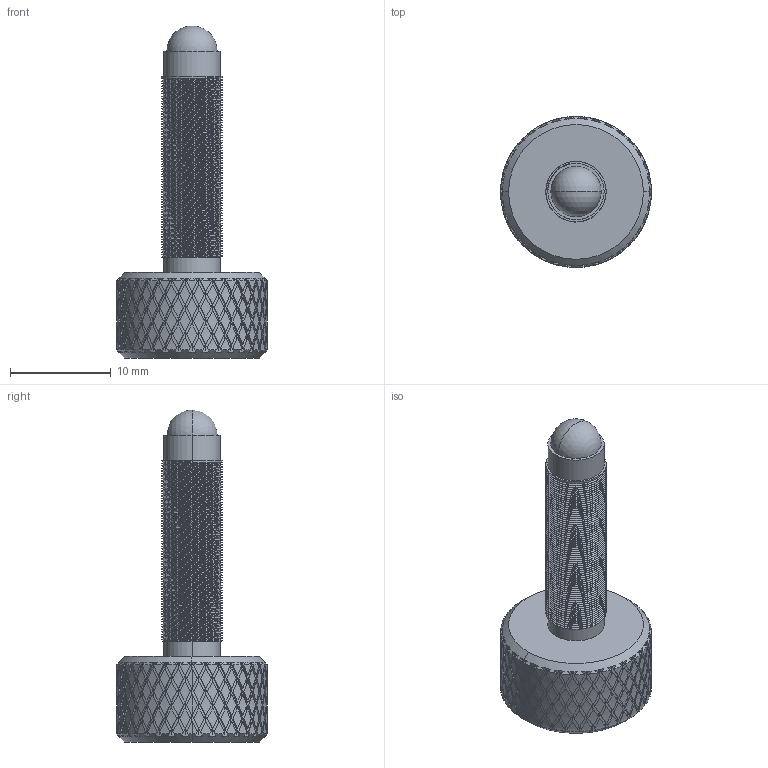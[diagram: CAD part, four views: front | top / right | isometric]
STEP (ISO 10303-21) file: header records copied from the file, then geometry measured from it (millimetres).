
FILE_DESCRIPTION (( 'STEP AP203' ), '1' );
FILE_NAME ('M6螺钉×0.25.STEP', '2024-04-30T05:53:29', ( '' ), ( '' ), 'SwSTEP 2.0', 'SolidWorks 2022', '' );
FILE_SCHEMA (( 'CONFIG_CONTROL_DESIGN' ));
Length unit declared in the file: millimetre
Products named in the file (1): M6ﾂﾝｶ､｡ﾁ0.25
Bounding box: 15 x 15 x 33 mm (x, y, z)
Volume: 1992.8 mm3; surface area: 1740.4 mm2
Topology: 2 solids, 2 shells, 1683 faces, 3853 edges, 2176 vertices
Faces by surface type: bspline 1301, cylinder 358, plane 14, cone 8, sphere 2
Entity records: 81700 total; most frequent: CARTESIAN_POINT 58878, ORIENTED_EDGE 7692, EDGE_CURVE 3846, VERTEX_POINT 2173, EDGE_LOOP 1689, FACE_OUTER_BOUND 1683, ADVANCED_FACE 1683, B_SPLINE_CURVE_WITH_KNOTS 1467
